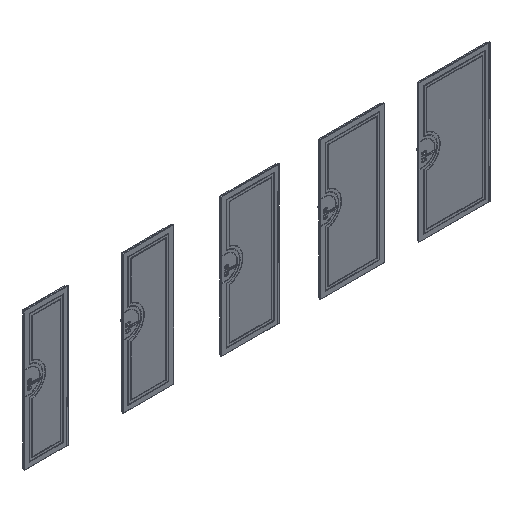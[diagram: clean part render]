
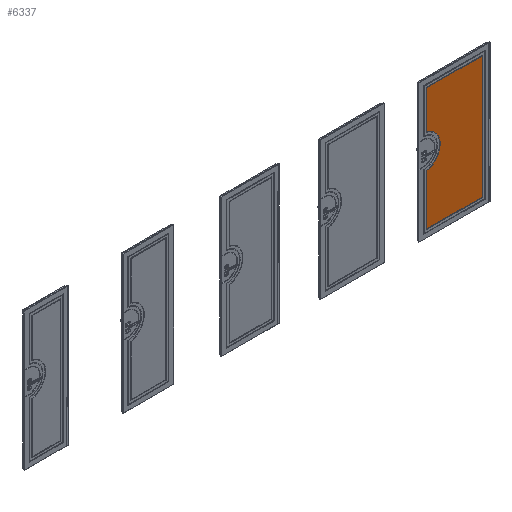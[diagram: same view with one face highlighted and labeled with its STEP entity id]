
A CAD part, isometric view. The second image highlights one B-rep face of the part: STEP entity #6337.
In plain terms, the highlighted planar face has unit normal (0, -1, 0).
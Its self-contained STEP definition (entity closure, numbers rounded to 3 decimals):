
#4138=FACE_OUTER_BOUND('',#11476,.T.);
#6337=ADVANCED_FACE('',(#4138),#7275,.F.);
#7275=PLANE('',#38193);
#9016=CIRCLE('',#38112,257.15);
#11476=EDGE_LOOP('',(#20231,#20232,#20233,#20234,#20235,#20236));
#20231=ORIENTED_EDGE('',*,*,#28941,.T.);
#20232=ORIENTED_EDGE('',*,*,#28942,.T.);
#20233=ORIENTED_EDGE('',*,*,#28932,.T.);
#20234=ORIENTED_EDGE('',*,*,#28935,.T.);
#20235=ORIENTED_EDGE('',*,*,#28937,.T.);
#20236=ORIENTED_EDGE('',*,*,#28939,.T.);
#24317=VERTEX_POINT('',#64507);
#24318=VERTEX_POINT('',#64509);
#24319=VERTEX_POINT('',#64516);
#24320=VERTEX_POINT('',#64523);
#24321=VERTEX_POINT('',#64527);
#24322=VERTEX_POINT('',#64531);
#28932=EDGE_CURVE('',#24318,#24317,#31867,.T.);
#28935=EDGE_CURVE('',#24317,#24319,#31869,.T.);
#28937=EDGE_CURVE('',#24319,#24320,#9016,.T.);
#28939=EDGE_CURVE('',#24320,#24321,#31871,.T.);
#28941=EDGE_CURVE('',#24321,#24322,#31873,.T.);
#28942=EDGE_CURVE('',#24322,#24318,#31874,.T.);
#31867=LINE('',#64508,#34337);
#31869=LINE('',#64517,#34339);
#31871=LINE('',#64528,#34341);
#31873=LINE('',#64532,#34343);
#31874=LINE('',#64534,#34344);
#34337=VECTOR('',#47546,1.);
#34339=VECTOR('',#47550,1.);
#34341=VECTOR('',#47558,1.);
#34343=VECTOR('',#47562,1.);
#34344=VECTOR('',#47565,1.);
#38112=AXIS2_PLACEMENT_3D('',#64524,#47553,#47554);
#38193=AXIS2_PLACEMENT_3D('',#64771,#47747,#47748);
#47546=DIRECTION('',(-1.,0.,0.));
#47550=DIRECTION('',(0.,0.,-1.));
#47553=DIRECTION('',(0.,1.,0.));
#47554=DIRECTION('',(0.229,0.,0.973));
#47558=DIRECTION('',(0.,0.,-1.));
#47562=DIRECTION('',(1.,0.,0.));
#47565=DIRECTION('',(0.,0.,1.));
#47747=DIRECTION('',(0.,1.,0.));
#47748=DIRECTION('',(-1.,0.,0.));
#64507=CARTESIAN_POINT('',(5595.15,-39.3,1912.85));
#64508=CARTESIAN_POINT('',(6409.,-39.3,1912.85));
#64509=CARTESIAN_POINT('',(6404.85,-39.3,1912.85));
#64516=CARTESIAN_POINT('',(5595.15,-39.3,1353.527));
#64517=CARTESIAN_POINT('',(5595.15,-39.3,1917.));
#64523=CARTESIAN_POINT('',(5595.15,-39.3,854.473));
#64524=CARTESIAN_POINT('',(5533.,-39.3,1104.));
#64527=CARTESIAN_POINT('',(5595.15,-39.3,117.15));
#64528=CARTESIAN_POINT('',(5595.15,-39.3,857.738));
#64531=CARTESIAN_POINT('',(6404.85,-39.3,117.15));
#64532=CARTESIAN_POINT('',(5591.,-39.3,117.15));
#64534=CARTESIAN_POINT('',(6404.85,-39.3,113.));
#64771=CARTESIAN_POINT('',(5678.,-39.3,2030.));
